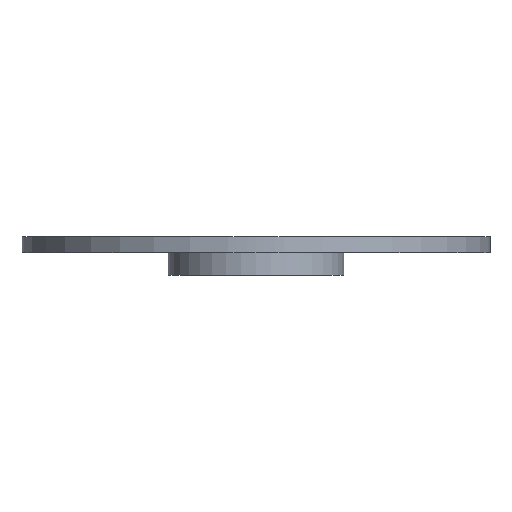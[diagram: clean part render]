
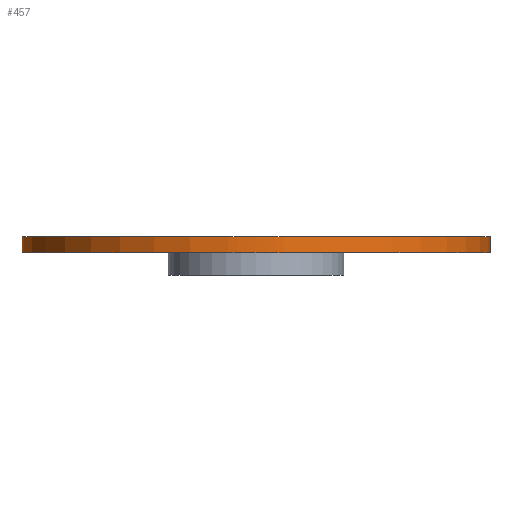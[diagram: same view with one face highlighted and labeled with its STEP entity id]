
A CAD part, front view. The second image highlights one B-rep face of the part: STEP entity #457.
In plain terms, the highlighted cylindrical face has radius 58 mm (diameter 116 mm), a full revolution.
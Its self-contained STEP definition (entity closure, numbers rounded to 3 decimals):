
#21 = EDGE_CURVE('',#22,#24,#26,.T.);
#22 = VERTEX_POINT('',#23);
#23 = CARTESIAN_POINT('',(116.,58.,9.5));
#24 = VERTEX_POINT('',#25);
#25 = CARTESIAN_POINT('',(115.576,65.,9.5));
#26 = CIRCLE('',#27,58.);
#27 = AXIS2_PLACEMENT_3D('',#28,#29,#30);
#28 = CARTESIAN_POINT('',(58.,58.,9.5));
#29 = DIRECTION('',(0.,0.,1.));
#30 = DIRECTION('',(1.,0.,-0.));
#32 = EDGE_CURVE('',#24,#33,#35,.T.);
#33 = VERTEX_POINT('',#34);
#34 = CARTESIAN_POINT('',(65.,115.576,9.5));
#35 = CIRCLE('',#36,58.);
#36 = AXIS2_PLACEMENT_3D('',#37,#38,#39);
#37 = CARTESIAN_POINT('',(58.,58.,9.5));
#38 = DIRECTION('',(0.,0.,1.));
#39 = DIRECTION('',(1.,0.,-0.));
#41 = EDGE_CURVE('',#33,#42,#44,.T.);
#42 = VERTEX_POINT('',#43);
#43 = CARTESIAN_POINT('',(58.,116.,9.5));
#44 = CIRCLE('',#45,58.);
#45 = AXIS2_PLACEMENT_3D('',#46,#47,#48);
#46 = CARTESIAN_POINT('',(58.,58.,9.5));
#47 = DIRECTION('',(0.,0.,1.));
#48 = DIRECTION('',(1.,0.,-0.));
#50 = EDGE_CURVE('',#42,#51,#53,.T.);
#51 = VERTEX_POINT('',#52);
#52 = CARTESIAN_POINT('',(51.,115.576,9.5));
#53 = CIRCLE('',#54,58.);
#54 = AXIS2_PLACEMENT_3D('',#55,#56,#57);
#55 = CARTESIAN_POINT('',(58.,58.,9.5));
#56 = DIRECTION('',(0.,0.,1.));
#57 = DIRECTION('',(1.,0.,-0.));
#59 = EDGE_CURVE('',#51,#60,#62,.T.);
#60 = VERTEX_POINT('',#61);
#61 = CARTESIAN_POINT('',(0.424,65.,9.5));
#62 = CIRCLE('',#63,58.);
#63 = AXIS2_PLACEMENT_3D('',#64,#65,#66);
#64 = CARTESIAN_POINT('',(58.,58.,9.5));
#65 = DIRECTION('',(0.,0.,1.));
#66 = DIRECTION('',(1.,0.,-0.));
#68 = EDGE_CURVE('',#60,#69,#71,.T.);
#69 = VERTEX_POINT('',#70);
#70 = CARTESIAN_POINT('',(0.,58.,9.5));
#71 = CIRCLE('',#72,58.);
#72 = AXIS2_PLACEMENT_3D('',#73,#74,#75);
#73 = CARTESIAN_POINT('',(58.,58.,9.5));
#74 = DIRECTION('',(0.,0.,1.));
#75 = DIRECTION('',(1.,0.,-0.));
#77 = EDGE_CURVE('',#69,#78,#80,.T.);
#78 = VERTEX_POINT('',#79);
#79 = CARTESIAN_POINT('',(0.424,51.,9.5));
#80 = CIRCLE('',#81,58.);
#81 = AXIS2_PLACEMENT_3D('',#82,#83,#84);
#82 = CARTESIAN_POINT('',(58.,58.,9.5));
#83 = DIRECTION('',(0.,0.,1.));
#84 = DIRECTION('',(1.,0.,-0.));
#86 = EDGE_CURVE('',#78,#87,#89,.T.);
#87 = VERTEX_POINT('',#88);
#88 = CARTESIAN_POINT('',(51.,0.424,9.5));
#89 = CIRCLE('',#90,58.);
#90 = AXIS2_PLACEMENT_3D('',#91,#92,#93);
#91 = CARTESIAN_POINT('',(58.,58.,9.5));
#92 = DIRECTION('',(0.,0.,1.));
#93 = DIRECTION('',(1.,0.,-0.));
#95 = EDGE_CURVE('',#87,#96,#98,.T.);
#96 = VERTEX_POINT('',#97);
#97 = CARTESIAN_POINT('',(58.,0.,9.5));
#98 = CIRCLE('',#99,58.);
#99 = AXIS2_PLACEMENT_3D('',#100,#101,#102);
#100 = CARTESIAN_POINT('',(58.,58.,9.5));
#101 = DIRECTION('',(0.,0.,1.));
#102 = DIRECTION('',(1.,0.,-0.));
#104 = EDGE_CURVE('',#96,#105,#107,.T.);
#105 = VERTEX_POINT('',#106);
#106 = CARTESIAN_POINT('',(65.,0.424,9.5));
#107 = CIRCLE('',#108,58.);
#108 = AXIS2_PLACEMENT_3D('',#109,#110,#111);
#109 = CARTESIAN_POINT('',(58.,58.,9.5));
#110 = DIRECTION('',(0.,0.,1.));
#111 = DIRECTION('',(1.,0.,-0.));
#113 = EDGE_CURVE('',#105,#114,#116,.T.);
#114 = VERTEX_POINT('',#115);
#115 = CARTESIAN_POINT('',(115.576,51.,9.5));
#116 = CIRCLE('',#117,58.);
#117 = AXIS2_PLACEMENT_3D('',#118,#119,#120);
#118 = CARTESIAN_POINT('',(58.,58.,9.5));
#119 = DIRECTION('',(0.,0.,1.));
#120 = DIRECTION('',(1.,0.,-0.));
#122 = EDGE_CURVE('',#114,#22,#123,.T.);
#123 = CIRCLE('',#124,58.);
#124 = AXIS2_PLACEMENT_3D('',#125,#126,#127);
#125 = CARTESIAN_POINT('',(58.,58.,9.5));
#126 = DIRECTION('',(0.,0.,1.));
#127 = DIRECTION('',(1.,0.,-0.));
#457 = ADVANCED_FACE('',(#458),#586,.T.);
#458 = FACE_BOUND('',#459,.T.);
#459 = EDGE_LOOP('',(#460,#461,#462,#463,#464,#465,#466,#467,#468,#469,
    #470,#477,#486,#495,#504,#513,#522,#531,#540,#549,#558,#567,#576,
    #583,#584,#585));
#460 = ORIENTED_EDGE('',*,*,#104,.F.);
#461 = ORIENTED_EDGE('',*,*,#95,.F.);
#462 = ORIENTED_EDGE('',*,*,#86,.F.);
#463 = ORIENTED_EDGE('',*,*,#77,.F.);
#464 = ORIENTED_EDGE('',*,*,#68,.F.);
#465 = ORIENTED_EDGE('',*,*,#59,.F.);
#466 = ORIENTED_EDGE('',*,*,#50,.F.);
#467 = ORIENTED_EDGE('',*,*,#41,.F.);
#468 = ORIENTED_EDGE('',*,*,#32,.F.);
#469 = ORIENTED_EDGE('',*,*,#21,.F.);
#470 = ORIENTED_EDGE('',*,*,#471,.F.);
#471 = EDGE_CURVE('',#472,#22,#474,.T.);
#472 = VERTEX_POINT('',#473);
#473 = CARTESIAN_POINT('',(116.,58.,5.5));
#474 = B_SPLINE_CURVE_WITH_KNOTS('',1,(#475,#476),.UNSPECIFIED.,.F.,.F.,
  (2,2),(0.,4.),.PIECEWISE_BEZIER_KNOTS.);
#475 = CARTESIAN_POINT('',(116.,58.,5.5));
#476 = CARTESIAN_POINT('',(116.,58.,9.5));
#477 = ORIENTED_EDGE('',*,*,#478,.T.);
#478 = EDGE_CURVE('',#472,#479,#481,.T.);
#479 = VERTEX_POINT('',#480);
#480 = CARTESIAN_POINT('',(115.576,65.,5.5));
#481 = CIRCLE('',#482,58.);
#482 = AXIS2_PLACEMENT_3D('',#483,#484,#485);
#483 = CARTESIAN_POINT('',(58.,58.,5.5));
#484 = DIRECTION('',(0.,0.,1.));
#485 = DIRECTION('',(1.,0.,-0.));
#486 = ORIENTED_EDGE('',*,*,#487,.T.);
#487 = EDGE_CURVE('',#479,#488,#490,.T.);
#488 = VERTEX_POINT('',#489);
#489 = CARTESIAN_POINT('',(65.,115.576,5.5));
#490 = CIRCLE('',#491,58.);
#491 = AXIS2_PLACEMENT_3D('',#492,#493,#494);
#492 = CARTESIAN_POINT('',(58.,58.,5.5));
#493 = DIRECTION('',(0.,0.,1.));
#494 = DIRECTION('',(1.,0.,-0.));
#495 = ORIENTED_EDGE('',*,*,#496,.T.);
#496 = EDGE_CURVE('',#488,#497,#499,.T.);
#497 = VERTEX_POINT('',#498);
#498 = CARTESIAN_POINT('',(58.,116.,5.5));
#499 = CIRCLE('',#500,58.);
#500 = AXIS2_PLACEMENT_3D('',#501,#502,#503);
#501 = CARTESIAN_POINT('',(58.,58.,5.5));
#502 = DIRECTION('',(0.,0.,1.));
#503 = DIRECTION('',(1.,0.,-0.));
#504 = ORIENTED_EDGE('',*,*,#505,.T.);
#505 = EDGE_CURVE('',#497,#506,#508,.T.);
#506 = VERTEX_POINT('',#507);
#507 = CARTESIAN_POINT('',(51.,115.576,5.5));
#508 = CIRCLE('',#509,58.);
#509 = AXIS2_PLACEMENT_3D('',#510,#511,#512);
#510 = CARTESIAN_POINT('',(58.,58.,5.5));
#511 = DIRECTION('',(0.,0.,1.));
#512 = DIRECTION('',(1.,0.,-0.));
#513 = ORIENTED_EDGE('',*,*,#514,.T.);
#514 = EDGE_CURVE('',#506,#515,#517,.T.);
#515 = VERTEX_POINT('',#516);
#516 = CARTESIAN_POINT('',(0.424,65.,5.5));
#517 = CIRCLE('',#518,58.);
#518 = AXIS2_PLACEMENT_3D('',#519,#520,#521);
#519 = CARTESIAN_POINT('',(58.,58.,5.5));
#520 = DIRECTION('',(0.,0.,1.));
#521 = DIRECTION('',(1.,0.,-0.));
#522 = ORIENTED_EDGE('',*,*,#523,.T.);
#523 = EDGE_CURVE('',#515,#524,#526,.T.);
#524 = VERTEX_POINT('',#525);
#525 = CARTESIAN_POINT('',(0.,58.,5.5));
#526 = CIRCLE('',#527,58.);
#527 = AXIS2_PLACEMENT_3D('',#528,#529,#530);
#528 = CARTESIAN_POINT('',(58.,58.,5.5));
#529 = DIRECTION('',(0.,0.,1.));
#530 = DIRECTION('',(1.,0.,-0.));
#531 = ORIENTED_EDGE('',*,*,#532,.T.);
#532 = EDGE_CURVE('',#524,#533,#535,.T.);
#533 = VERTEX_POINT('',#534);
#534 = CARTESIAN_POINT('',(0.424,51.,5.5));
#535 = CIRCLE('',#536,58.);
#536 = AXIS2_PLACEMENT_3D('',#537,#538,#539);
#537 = CARTESIAN_POINT('',(58.,58.,5.5));
#538 = DIRECTION('',(0.,0.,1.));
#539 = DIRECTION('',(1.,0.,-0.));
#540 = ORIENTED_EDGE('',*,*,#541,.T.);
#541 = EDGE_CURVE('',#533,#542,#544,.T.);
#542 = VERTEX_POINT('',#543);
#543 = CARTESIAN_POINT('',(51.,0.424,5.5));
#544 = CIRCLE('',#545,58.);
#545 = AXIS2_PLACEMENT_3D('',#546,#547,#548);
#546 = CARTESIAN_POINT('',(58.,58.,5.5));
#547 = DIRECTION('',(0.,0.,1.));
#548 = DIRECTION('',(1.,0.,-0.));
#549 = ORIENTED_EDGE('',*,*,#550,.T.);
#550 = EDGE_CURVE('',#542,#551,#553,.T.);
#551 = VERTEX_POINT('',#552);
#552 = CARTESIAN_POINT('',(58.,0.,5.5));
#553 = CIRCLE('',#554,58.);
#554 = AXIS2_PLACEMENT_3D('',#555,#556,#557);
#555 = CARTESIAN_POINT('',(58.,58.,5.5));
#556 = DIRECTION('',(0.,0.,1.));
#557 = DIRECTION('',(1.,0.,-0.));
#558 = ORIENTED_EDGE('',*,*,#559,.T.);
#559 = EDGE_CURVE('',#551,#560,#562,.T.);
#560 = VERTEX_POINT('',#561);
#561 = CARTESIAN_POINT('',(65.,0.424,5.5));
#562 = CIRCLE('',#563,58.);
#563 = AXIS2_PLACEMENT_3D('',#564,#565,#566);
#564 = CARTESIAN_POINT('',(58.,58.,5.5));
#565 = DIRECTION('',(0.,0.,1.));
#566 = DIRECTION('',(1.,0.,-0.));
#567 = ORIENTED_EDGE('',*,*,#568,.T.);
#568 = EDGE_CURVE('',#560,#569,#571,.T.);
#569 = VERTEX_POINT('',#570);
#570 = CARTESIAN_POINT('',(115.576,51.,5.5));
#571 = CIRCLE('',#572,58.);
#572 = AXIS2_PLACEMENT_3D('',#573,#574,#575);
#573 = CARTESIAN_POINT('',(58.,58.,5.5));
#574 = DIRECTION('',(0.,0.,1.));
#575 = DIRECTION('',(1.,0.,-0.));
#576 = ORIENTED_EDGE('',*,*,#577,.T.);
#577 = EDGE_CURVE('',#569,#472,#578,.T.);
#578 = CIRCLE('',#579,58.);
#579 = AXIS2_PLACEMENT_3D('',#580,#581,#582);
#580 = CARTESIAN_POINT('',(58.,58.,5.5));
#581 = DIRECTION('',(0.,0.,1.));
#582 = DIRECTION('',(1.,0.,-0.));
#583 = ORIENTED_EDGE('',*,*,#471,.T.);
#584 = ORIENTED_EDGE('',*,*,#122,.F.);
#585 = ORIENTED_EDGE('',*,*,#113,.F.);
#586 = CYLINDRICAL_SURFACE('',#587,58.);
#587 = AXIS2_PLACEMENT_3D('',#588,#589,#590);
#588 = CARTESIAN_POINT('',(58.,58.,5.5));
#589 = DIRECTION('',(0.,0.,1.));
#590 = DIRECTION('',(1.,0.,-0.));
